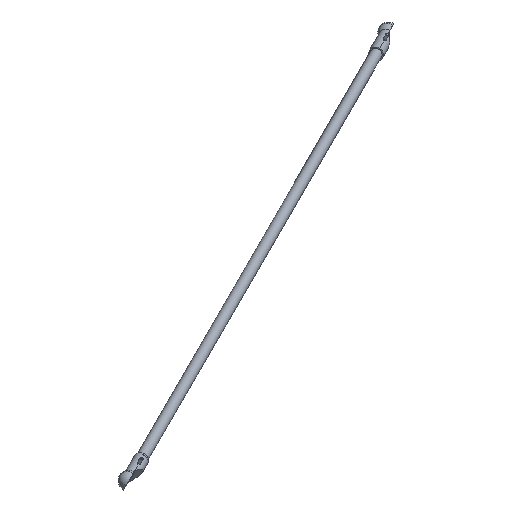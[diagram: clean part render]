
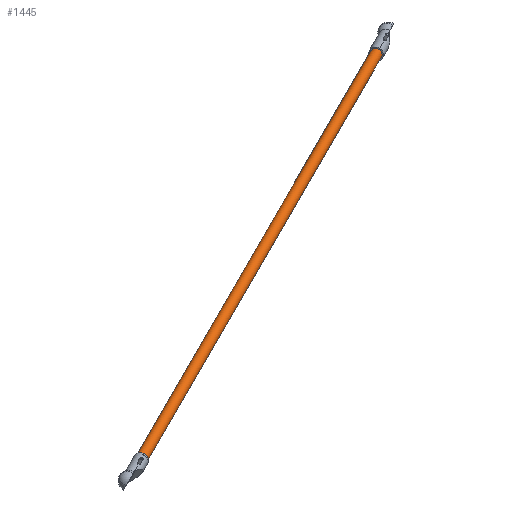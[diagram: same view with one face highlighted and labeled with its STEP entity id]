
A CAD part, top view. The second image highlights one B-rep face of the part: STEP entity #1445.
In plain terms, the highlighted cylindrical face has radius 7 mm (diameter 14 mm), a partial arc.
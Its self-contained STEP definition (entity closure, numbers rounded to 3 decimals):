
#48 = LINE ( 'NONE', #490, #1114 ) ;
#123 = CYLINDRICAL_SURFACE ( 'NONE', #1159, 7. ) ;
#201 = ORIENTED_EDGE ( 'NONE', *, *, #1574, .F. ) ;
#328 = ORIENTED_EDGE ( 'NONE', *, *, #1300, .T. ) ;
#351 = ORIENTED_EDGE ( 'NONE', *, *, #1360, .F. ) ;
#395 = CARTESIAN_POINT ( 'NONE',  ( -340.239, -501.085, -319.455 ) ) ;
#435 = DIRECTION ( 'NONE',  ( 0.424, 0.734, 0.531 ) ) ;
#490 = CARTESIAN_POINT ( 'NONE',  ( -357.407, -502.816, -303.353 ) ) ;
#500 = VERTEX_POINT ( 'NONE', #1147 ) ;
#517 = LINE ( 'NONE', #1309, #1428 ) ;
#576 = CARTESIAN_POINT ( 'NONE',  ( -352.364, -494.085, -319.457 ) ) ;
#726 = DIRECTION ( 'NONE',  ( -0.265, -0.46, 0.848 ) ) ;
#754 = AXIS2_PLACEMENT_3D ( 'NONE', #1386, #1394, #435 ) ;
#863 = DIRECTION ( 'NONE',  ( 0.866, -0.5, 0. ) ) ;
#898 = DIRECTION ( 'NONE',  ( 0.265, 0.46, -0.848 ) ) ;
#969 = CARTESIAN_POINT ( 'NONE',  ( -80.615, -37.615, -1167.889 ) ) ;
#999 = CIRCLE ( 'NONE', #1227, 7. ) ;
#1114 = VECTOR ( 'NONE', #898, 1000. ) ;
#1147 = CARTESIAN_POINT ( 'NONE',  ( -86.677, -34.115, -1167.89 ) ) ;
#1159 = AXIS2_PLACEMENT_3D ( 'NONE', #1505, #1719, #1211 ) ;
#1177 = DIRECTION ( 'NONE',  ( 0.265, 0.46, -0.848 ) ) ;
#1184 = FACE_OUTER_BOUND ( 'NONE', #1461, .T. ) ;
#1197 = VERTEX_POINT ( 'NONE', #395 ) ;
#1211 = DIRECTION ( 'NONE',  ( 0.866, -0.5, 0. ) ) ;
#1227 = AXIS2_PLACEMENT_3D ( 'NONE', #969, #726, #863 ) ;
#1300 = EDGE_CURVE ( 'NONE', #1197, #1734, #517, .T. ) ;
#1309 = CARTESIAN_POINT ( 'NONE',  ( -345.282, -509.816, -303.351 ) ) ;
#1360 = EDGE_CURVE ( 'NONE', #1552, #500, #48, .T. ) ;
#1386 = CARTESIAN_POINT ( 'NONE',  ( -346.301, -497.585, -319.456 ) ) ;
#1394 = DIRECTION ( 'NONE',  ( -0.265, -0.46, 0.848 ) ) ;
#1413 = ORIENTED_EDGE ( 'NONE', *, *, #1577, .T. ) ;
#1428 = VECTOR ( 'NONE', #1177, 1000. ) ;
#1445 = ADVANCED_FACE ( 'NONE', ( #1184 ), #123, .T. ) ;
#1461 = EDGE_LOOP ( 'NONE', ( #351, #201, #328, #1413 ) ) ;
#1505 = CARTESIAN_POINT ( 'NONE',  ( -351.344, -506.316, -303.352 ) ) ;
#1552 = VERTEX_POINT ( 'NONE', #576 ) ;
#1574 = EDGE_CURVE ( 'NONE', #1197, #1552, #1611, .T. ) ;
#1577 = EDGE_CURVE ( 'NONE', #1734, #500, #999, .T. ) ;
#1611 = CIRCLE ( 'NONE', #754, 7. ) ;
#1619 = CARTESIAN_POINT ( 'NONE',  ( -74.553, -41.115, -1167.888 ) ) ;
#1719 = DIRECTION ( 'NONE',  ( 0.265, 0.46, -0.848 ) ) ;
#1734 = VERTEX_POINT ( 'NONE', #1619 ) ;
